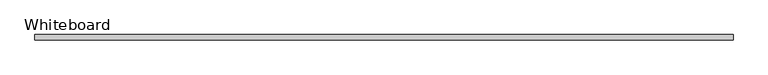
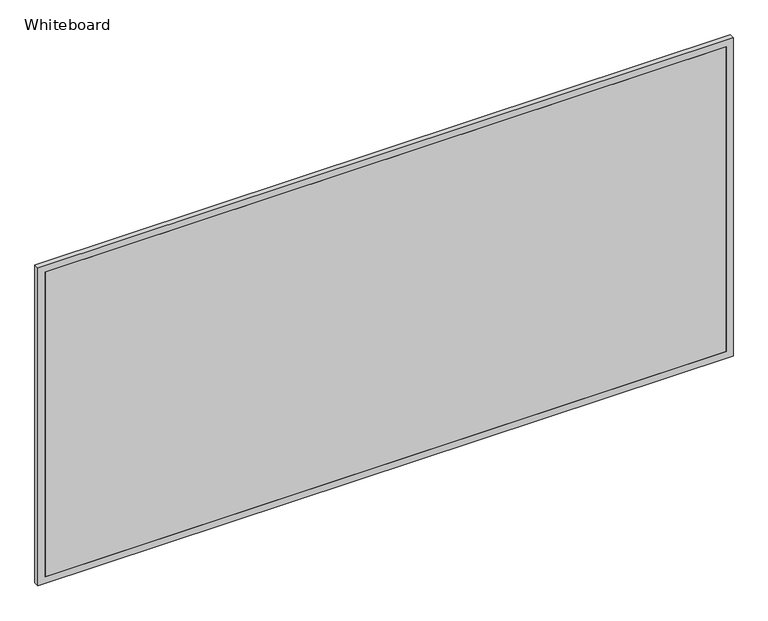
"""IFC4 building model written with IfcOpenShell, lengths in millimetres: proxy geometry, Panel-Fascia-Teknion-Altos-Whiteboard : Whiteboard."""

from ifc_helpers import new_model, si_unit, frame, origin, place, context, project, spatial, polyline, outline, extrude, source, transform, mapped, element, save


def whiteboard_56b2b3fd(model_context):
    return source(origin(), model_context, "Body", "SweptSolid", [
        extrude(outline(polyline([(1216.025, 1449.7176124), (1216.025, -1055.9638126), (3.175, -1055.9638126), (3.175, 1449.7176124), (1216.025, 1449.7176124)]), holes=[polyline([(28.575, 1424.3176124), (28.575, -1030.5638126), (1190.625, -1030.5638126), (1190.625, 1424.3176124), (28.575, 1424.3176124)])]), frame((0.0, 0.0, 0.0), z_axis=(0.0, 1.0, 0.0), x_axis=(0.0, 0.0, 1.0)), (0.0, 0.0, 1.0), 19.05),
        extrude(outline(polyline([(1424.3176124, 19.05), (1424.3176124, 0.0), (-1030.5638126, 0.0), (-1030.5638126, 19.05), (1424.3176124, 19.05)])), frame((0.0, 0.0, 28.575), z_axis=(0.0, 0.0, 1.0), x_axis=(1.0, 0.0, 0.0)), (0.0, 0.0, 1.0), 1162.05),
    ])


if __name__ == "__main__":
    model = new_model("IFC4")
    model_context = context("Model", 3, world=origin())
    ifc_project = project(units=[si_unit("LENGTHUNIT", "METRE", prefix="MILLI")], contexts=[model_context])
    site = spatial("IfcSite", under=ifc_project)
    building = spatial("IfcBuilding", under=site)
    placement = place(None, origin())
    whiteboard_shape = whiteboard_56b2b3fd(model_context)
    element("IfcBuildingElementProxy", 1, Name="Panel-Fascia-Teknion-Altos-Whiteboard : Whiteboard", ObjectType="Panel-Fascia-Teknion-Altos-Whiteboard : Whiteboard", at=placement, inside=building, context=model_context, shape_type="MappedRepresentation", body=[
        mapped(whiteboard_shape, transform((0.0, 0.0, 0.0), x_axis=(1.0, 0.0, 0.0), y_axis=(0.0, 1.0, 0.0), z_axis=(0.0, 0.0, 1.0))),
    ])
    save(model, "model.ifc")
